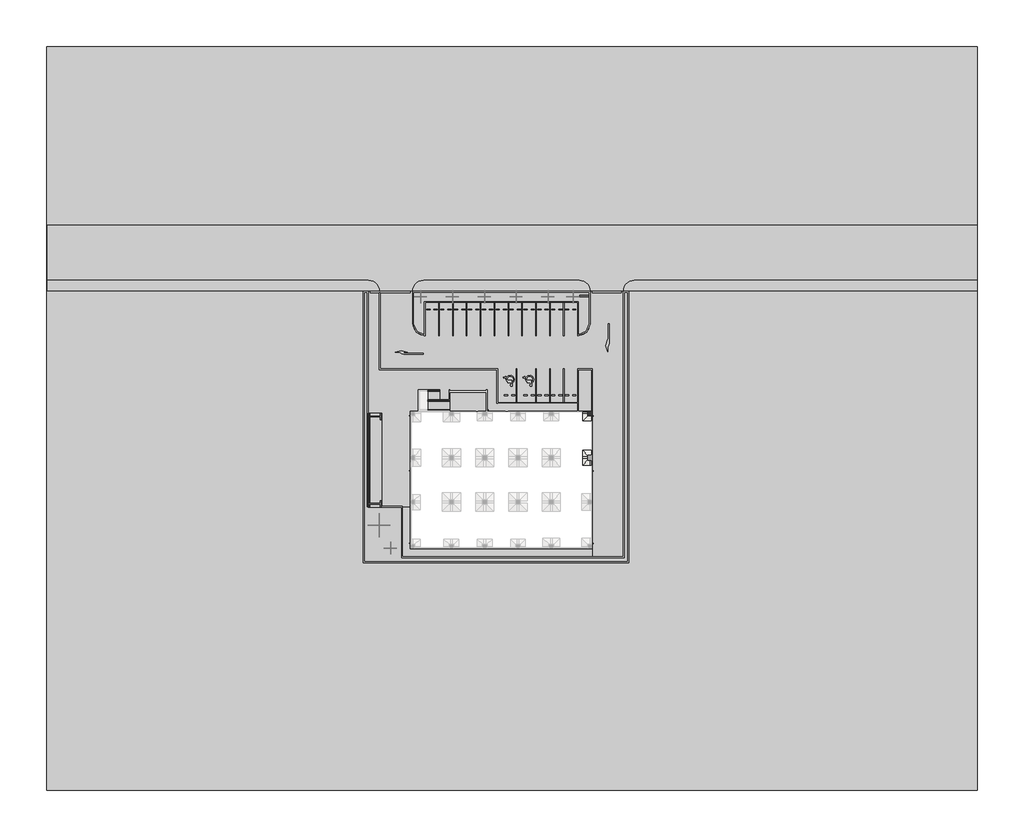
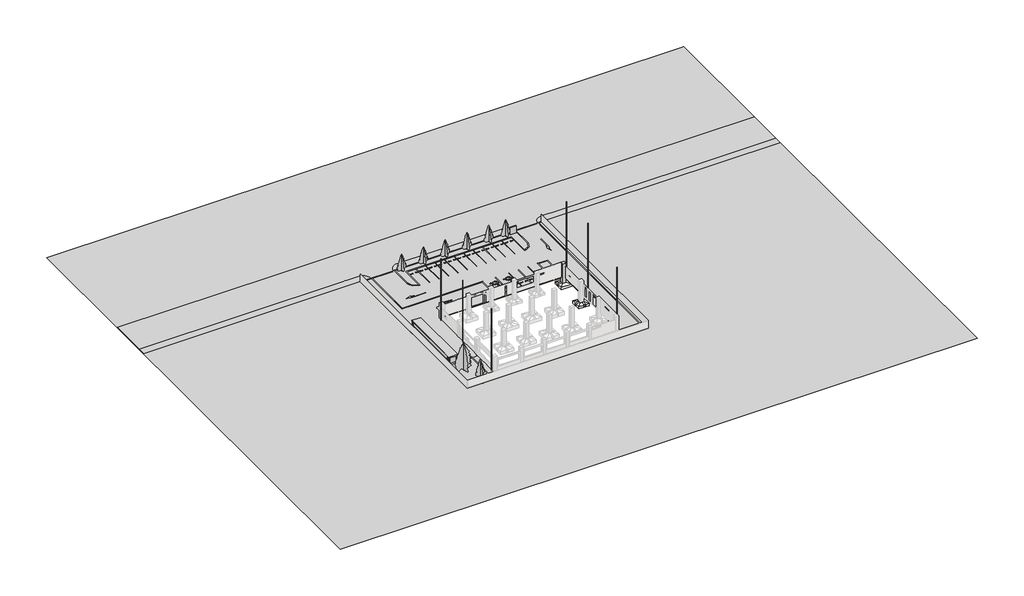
# One storey, part 4 of 4: 34 proxies, 14 geographic elements, 4 railings, 2 ramps, 2 slabs, 1 column.
"""IFC4 building model written with IfcOpenShell, lengths in millimetres."""

from ifc_helpers import new_model, si_unit, frame, origin, place, context, project, spatial, polyline, outline, extrude, faceted_brep, triangles, transform, mapped, element, save
from components import parking_47fc6d20, parking_f053e08a, parking_146f316f, generic_models_576e4361, generic_models_93210aff, generic_models_82cc7334, geographic_element_0894a9f6, geographic_element_8a4f6f01, geographic_element_bdb0ab01, geographic_element_bd6ab4d7, geographic_element_62d1d38a, w200_b9cd528b, w200_ae710f6c, ramp_1_20_a26907a8, ramp_1_20_5bf82f81

model = new_model("IFC4")

# Units and contexts
model_context = context("Model", 3, world=origin())
ifc_project = project(units=[si_unit("LENGTHUNIT", "METRE", prefix="MILLI")], contexts=[model_context])

# Site, building, storey
site = spatial("IfcSite", under=ifc_project)
building = spatial("IfcBuilding", under=site)
storey = spatial("IfcBuildingStorey", under=building, Name="設計GL=平均地盤面", Elevation=-300.0)

# Proxies
placement = place(None, origin())
element("IfcBuildingElementProxy", 1, Name="Building Element Proxy", at=placement, inside=storey, context=model_context, shape_type="Tessellation", body=[
    triangles([(-65997.3529907, 90131.6519531, -300.0000023), (-65997.3529907, -43956.954126, -300.0000023), (101830.4634521, -43956.954126, -300.0000023), (101830.4634521, 46000.0015137, -300.0000023), (39976.1878052, 46000.0015137, -300.0000023), (38925.0008057, 46000.0015137, -300.0000023), (38925.0008057, 45250.0007813, -300.0000023), (38925.0008057, -2900.0000221, -300.0000023), (-4888.888797, -2900.0000221, -300.0000023), (-8899.9997772, -2900.0000221, -300.0000023), (-8899.9997772, 46000.0015137, -300.0000023), (-65924.9992676, 46000.0015137, -300.0000023), (-65924.9992676, 48000.0003662, -300.0000023), (-65924.9992676, 57999.9992798, -300.0000023), (-24425.5486267, 57999.9992798, -300.0000023), (10395.1794434, 57999.9992798, -300.0000023), (56029.8544189, 57999.9992798, -300.0000023), (56795.2123535, 57999.9992798, -300.0000023), (101830.4634521, 57999.9992798, -300.0000023), (101830.4634521, 90131.6519531, -300.0000023)], [[2, 12, 1], [12, 2, 10], [9, 10, 2], [10, 11, 12], [2, 8, 9], [1, 14, 15], [14, 1, 13], [15, 16, 1], [1, 12, 13], [1, 16, 20], [6, 7, 5], [8, 4, 5], [3, 8, 2], [4, 8, 3], [8, 5, 7], [17, 18, 20], [19, 20, 18], [17, 20, 16]], closed=False),
])
element("IfcBuildingElementProxy", 2, Name="Building Element Proxy", at=placement, inside=storey, context=model_context, shape_type="Tessellation", body=[
    triangles([(0.0, 46000.0015137, -300.0000023), (50.1441776, 46445.0441162, -300.0000023), (198.0622564, 46867.7671509, -300.0000023), (436.3370293, 47246.9812134, -300.0000023), (753.0203882, 47563.664209, -300.0000023), (1132.2324886, 47801.9380371, -300.0000023), (1554.9581394, 47949.8545898, -300.0000023), (2000.0000153, 48000.0003662, -300.0000023), (29999.9990662, 48000.0003662, -300.0000023), (30445.0416687, 47949.8545898, -300.0000023), (30867.7670288, 47801.9380371, -300.0000023), (31246.9787659, 47563.664209, -300.0000023), (31563.6640869, 47246.9812134, -300.0000023), (31801.937915, 46867.7671509, -300.0000023), (31949.8567932, 46445.0441162, -300.0000023), (32000.0002441, 46000.0015137, -300.0000023), (37999.9991272, 46000.0015137, -300.0000023), (38041.8547119, 46371.462561, -300.0000023), (38050.1449036, 46445.0441162, -300.0000023), (38198.0614563, 46867.7671509, -300.0000023), (38436.3376099, 47246.9812134, -300.0000023), (38753.0206055, 47563.664209, -300.0000023), (39132.234668, 47801.9380371, -300.0000023), (39554.9577026, 47949.8545898, -300.0000023), (40000.0003052, 48000.0003662, -300.0000023), (41775.8081909, 48000.0003662, -300.0000023), (42779.3608887, 48000.0003662, -300.0000023), (101830.4634521, 48000.0003662, -300.0000023), (101830.4634521, 57999.9992798, -300.0000023), (56795.2123535, 57999.9992798, -300.0000023), (56029.8544189, 57999.9992798, -300.0000023), (10395.1794434, 57999.9992798, -300.0000023), (-24425.5486267, 57999.9992798, -300.0000023), (-65924.9992676, 57999.9992798, -300.0000023), (-65924.9992676, 48000.0003662, -300.0000023), (-11487.5918335, 48000.0003662, -300.0000023), (-8000.000061, 48000.0003662, -300.0000023), (-7554.9580399, 47949.8545898, -300.0000023), (-7132.2326797, 47801.9380371, -300.0000023), (-6753.0203613, 47563.664209, -300.0000023), (-6436.3367844, 47246.9812134, -300.0000023), (-6198.0623749, 46867.7671509, -300.0000023), (-6050.1440781, 46445.0441162, -300.0000023), (-6000.0000458, 46000.0015137, -300.0000023)], [[42, 43, 2], [40, 41, 4], [39, 40, 5], [42, 3, 41], [1, 2, 43], [2, 3, 42], [5, 40, 4], [4, 41, 3], [1, 43, 44], [39, 5, 6], [35, 36, 33], [35, 33, 34], [33, 36, 37], [33, 37, 32], [38, 6, 7], [38, 7, 32], [8, 9, 32], [32, 9, 31], [8, 32, 7], [38, 32, 37], [6, 38, 39], [15, 16, 18], [13, 14, 21], [12, 13, 22], [15, 20, 14], [18, 19, 15], [17, 18, 16], [21, 22, 13], [20, 21, 14], [19, 20, 15], [12, 22, 23], [11, 23, 24], [23, 11, 12], [31, 10, 24], [24, 10, 11], [31, 24, 25], [31, 26, 27], [30, 27, 28], [27, 30, 31], [30, 28, 29], [26, 31, 25], [10, 31, 9]], closed=False),
])
element("IfcBuildingElementProxy", 3, Name="Building Element Proxy", at=placement, inside=storey, context=model_context, shape_type="Tessellation", body=[
    triangles([(-6000.0000458, 46000.0015137, -300.0000023), (-6000.0000458, 45953.1253052, -300.0000023), (-6000.0000458, 32000.0002441, -300.0000023), (11097.0586945, 32000.0002441, -300.0000023), (15324.9994629, 32000.0002441, -300.0000023), (15324.9994629, 25999.9990356, -300.0000023), (29750.0003723, 25999.9990356, -300.0000023), (29750.0003723, 32000.0002441, -300.0000023), (32399.9990845, 32000.0002441, -300.0000023), (32399.9990845, 982.1229012, -300.0000023), (32399.9990845, -1486.2751225, -300.0000023), (32399.9990845, -1510.3910923, -300.0000023), (32399.9990845, -1850.0000141, -300.0000023), (33904.7025879, -1850.0000141, -300.0000023), (33985.8790283, -1850.0000141, -300.0000023), (37093.9823364, -1850.0000141, -300.0000023), (37999.9991272, -1850.0000141, -300.0000023), (37999.9991272, 44775.141394, -300.0000023), (37999.9991272, 45265.6230835, -300.0000023), (37999.9991272, 46000.0015137, -300.0000023), (32000.0002441, 46000.0015137, -300.0000023), (32000.0002441, 45359.3755005, -300.0000023), (32000.0002441, 41925.975769, -300.0000023), (32000.0002441, 40249.998999, -300.0000023), (31956.7679993, 39811.0490479, -300.0000023), (31828.729303, 39388.9631836, -300.0000023), (31620.8071106, 38999.9659973, -300.0000023), (31340.9893066, 38659.0100647, -300.0000023), (31000.033374, 38379.1922607, -300.0000023), (30611.0385132, 38171.2700684, -300.0000023), (30188.9526489, 38043.2336975, -300.0000023), (29750.0003723, 37999.9991272, -300.0000023), (29750.0003723, 40857.5433105, -300.0000023), (29750.0003723, 43999.9980103, -300.0000023), (2250.0000172, 43999.9980103, -300.0000023), (2250.0000172, 37999.9991272, -300.0000023), (1811.0467232, 38043.2336975, -300.0000023), (1388.9623123, 38171.2700684, -300.0000023), (999.9669428, 38379.1922607, -300.0000023), (659.0097748, 38659.0100647, -300.0000023), (379.1933879, 38999.9659973, -300.0000023), (171.2710502, 39388.9631836, -300.0000023), (43.2331169, 39811.0490479, -300.0000023), (0.0, 40249.998999, -300.0000023), (0.0, 45859.3728882, -300.0000023), (0.0, 46000.0015137, -300.0000023)], [[3, 36, 37], [36, 3, 4], [38, 39, 3], [37, 38, 3], [3, 39, 40], [5, 6, 7], [5, 7, 8], [4, 5, 35], [32, 5, 8], [31, 32, 8], [4, 35, 36], [32, 33, 5], [44, 45, 2], [43, 44, 2], [1, 2, 46], [46, 2, 45], [2, 3, 43], [43, 3, 42], [42, 3, 41], [5, 34, 35], [33, 34, 5], [3, 40, 41], [10, 17, 9], [31, 9, 30], [31, 8, 9], [30, 9, 29], [10, 11, 14], [15, 16, 10], [16, 17, 10], [12, 13, 14], [14, 15, 10], [14, 11, 12], [9, 17, 18], [28, 29, 9], [28, 9, 27], [25, 26, 18], [24, 25, 18], [9, 26, 27], [22, 23, 18], [18, 23, 24], [22, 18, 19], [22, 20, 21], [20, 22, 19], [18, 26, 9]], closed=False),
])
element("IfcBuildingElementProxy", 4, Name="Building Element Proxy", at=placement, inside=storey, context=model_context, shape_type="Tessellation", body=[
    triangles([(-5750.0001892, 24000.0001831, -300.0000023), (-5750.0001892, 7263.51362, -300.0000023), (-5750.0001892, 7099.9997635, -300.0000023), (-5037.0640549, 7099.9997635, -300.0000023), (-400.0000031, 7099.9997635, -300.0000023), (-400.0000031, 20772.06698, -300.0000023), (-400.0000031, 24420.0001282, -300.0000023), (29750.0003723, 24420.0001282, -300.0000023), (29750.0003723, 25849.9988892, -300.0000023), (15175.0004791, 25849.9988892, -300.0000023), (15175.0004791, 31850.0000977, -300.0000023), (10781.1768127, 31850.0000977, -300.0000023), (-6000.0000458, 31850.0000977, -300.0000023), (-6000.0000458, 45953.1253052, -300.0000023), (-6000.0000458, 46000.0015137, -300.0000023), (-8000.000061, 46000.0015137, -300.0000023), (-8000.000061, 45984.3745605, -300.0000023), (-8000.000061, 39230.7681885, -300.0000023), (-8000.000061, 34081.0801941, -300.0000023), (-8000.000061, 24000.0001831, -300.0000023), (-7154.1952927, 24000.0001831, -300.0000023)], [[19, 20, 13], [13, 21, 1], [21, 13, 20], [19, 13, 18], [16, 17, 15], [14, 15, 17], [14, 18, 13], [14, 17, 18], [1, 2, 6], [4, 5, 6], [4, 6, 2], [2, 3, 4], [1, 6, 7], [7, 10, 12], [12, 10, 11], [12, 13, 7], [9, 10, 8], [8, 10, 7], [7, 13, 1]], closed=False),
])
element("IfcBuildingElementProxy", 5, Name="Building Element Proxy", at=placement, inside=storey, context=model_context, shape_type="Tessellation", body=[
    triangles([(0.0, 40249.998999, -300.0000023), (43.2331169, 39811.0490479, -300.0000023), (171.2710502, 39388.9631836, -300.0000023), (379.1933879, 38999.9659973, -300.0000023), (659.0097748, 38659.0100647, -300.0000023), (999.9669428, 38379.1922607, -300.0000023), (1388.9623123, 38171.2700684, -300.0000023), (1811.0467232, 38043.2336975, -300.0000023), (2250.0000172, 37999.9991272, -300.0000023), (2250.0000172, 43999.9980103, -300.0000023), (29750.0003723, 43999.9980103, -300.0000023), (29750.0003723, 40857.5433105, -300.0000023), (29750.0003723, 37999.9991272, -300.0000023), (30188.9526489, 38043.2336975, -300.0000023), (30611.0385132, 38171.2700684, -300.0000023), (31000.033374, 38379.1922607, -300.0000023), (31340.9893066, 38659.0100647, -300.0000023), (31620.8071106, 38999.9659973, -300.0000023), (31828.729303, 39388.9631836, -300.0000023), (31956.7679993, 39811.0490479, -300.0000023), (32000.0002441, 40249.998999, -300.0000023), (32000.0002441, 41925.975769, -300.0000023), (32000.0002441, 45359.3755005, -300.0000023), (32000.0002441, 46000.0015137, -300.0000023), (0.0, 46000.0015137, -300.0000023), (0.0, 45859.3728882, -300.0000023)], [[1, 4, 5], [6, 1, 5], [1, 7, 8], [6, 7, 1], [1, 8, 9], [26, 1, 10], [25, 26, 10], [4, 1, 3], [25, 10, 24], [1, 9, 10], [3, 1, 2], [12, 14, 15], [12, 15, 16], [17, 18, 12], [17, 12, 16], [18, 19, 12], [21, 22, 12], [19, 20, 12], [12, 20, 21], [22, 11, 12], [23, 24, 11], [22, 23, 11], [11, 24, 10], [12, 13, 14]], closed=False),
])
element("IfcBuildingElementProxy", 6, Name="Building Element Proxy", at=placement, inside=storey, context=model_context, shape_type="Tessellation", body=[
    triangles([(-5750.0001892, 7099.9997635, -300.0000023), (-8000.000061, 7099.9997635, -300.0000023), (-8225.0002808, 7099.9997635, -300.0000023), (-8225.0002808, 24000.0001831, -300.0000023), (-8000.000061, 24000.0001831, -300.0000023), (-8000.000061, 34081.0801941, -300.0000023), (-8000.000061, 39230.7681885, -300.0000023), (-8000.000061, 45984.3745605, -300.0000023), (-8000.000061, 46000.0015137, -300.0000023), (-8849.9999222, 46000.0015137, -300.0000023), (-8849.9999222, 45997.6574707, -300.0000023), (-8849.9999222, 44984.61698, -300.0000023), (-8849.9999222, 44212.1618042, -300.0000023), (-8849.9999222, 41741.9358398, -300.0000023), (-8849.9999222, 2225.8064358, -300.0000023), (-8849.9999222, -1045.1612772, -300.0000023), (-8849.9999222, -2533.846209, -300.0000023), (-8849.9999222, -2849.9998764, -300.0000023), (-4901.6775513, -2849.9998764, -300.0000023), (38335.3949341, -2849.9998764, -300.0000023), (38345.9849854, -2849.9998764, -300.0000023), (38751.388147, -2849.9998764, -300.0000023), (38850.0007324, -2849.9998764, -300.0000023), (38850.0007324, 45178.7725708, -300.0000023), (38850.0007324, 45252.3448242, -300.0000023), (38850.0007324, 46000.0015137, -300.0000023), (37999.9991272, 46000.0015137, -300.0000023), (37999.9991272, 45265.6230835, -300.0000023), (37999.9991272, 44775.141394, -300.0000023), (37999.9991272, -2000.0000153, -300.0000023), (37342.5927429, -2000.0000153, -300.0000023), (34639.8949219, -2000.0000153, -300.0000023), (34569.3062073, -2000.0000153, -300.0000023), (-2000.0000153, -2000.0000153, -300.0000023), (-2000.0000153, 6253.631076, -300.0000023), (-2000.0000153, 6403.4422806, -300.0000023), (-2000.0000153, 7099.9997635, -300.0000023), (-5037.0640549, 7099.9997635, -300.0000023)], [[19, 15, 16], [35, 38, 15], [17, 19, 16], [2, 3, 15], [38, 1, 15], [2, 15, 1], [15, 3, 4], [17, 18, 19], [8, 12, 13], [8, 11, 12], [10, 11, 9], [8, 13, 14], [6, 7, 14], [6, 4, 5], [9, 11, 8], [8, 14, 7], [4, 6, 14], [14, 15, 4], [32, 20, 31], [19, 20, 33], [20, 32, 33], [19, 33, 34], [22, 23, 30], [30, 20, 21], [20, 30, 31], [30, 21, 22], [23, 24, 30], [35, 15, 34], [37, 38, 36], [36, 38, 35], [24, 25, 28], [28, 26, 27], [26, 28, 25], [24, 28, 29], [30, 24, 29], [19, 34, 15]], closed=False),
])
element("IfcBuildingElementProxy", 7, Name="Building Element Proxy", at=placement, inside=storey, context=model_context, shape_type="Tessellation", body=[
    triangles([(32399.9990845, -420.0000177, -300.0000023), (27750.9293701, -420.0000177, -300.0000023), (27568.8125793, -420.0000177, -300.0000023), (-400.0000031, -420.0000177, -300.0000023), (-400.0000031, 5892.5141647, -300.0000023), (-400.0000031, 6036.4792145, -300.0000023), (-400.0000031, 7099.9997635, -300.0000023), (-1850.0000141, 7099.9997635, -300.0000023), (-1850.0000141, 6369.0397293, -300.0000023), (-1850.0000141, 6219.7767471, -300.0000023), (-1850.0000141, -1850.0000141, -300.0000023), (32399.9990845, -1850.0000141, -300.0000023), (32399.9990845, -1510.3910923, -300.0000023), (32399.9990845, -1486.2751225, -300.0000023)], [[5, 10, 4], [4, 10, 11], [10, 5, 6], [8, 9, 7], [6, 9, 10], [9, 6, 7], [13, 14, 2], [12, 13, 2], [11, 3, 4], [3, 12, 2], [14, 1, 2], [3, 11, 12]], closed=False),
])
element("IfcBuildingElementProxy", 8, Name="Building Element Proxy", at=placement, inside=storey, context=model_context, shape_type="Tessellation", body=[
    triangles([(32270.0000427, 31850.0000977, -300.0000023), (29900.0005188, 31850.0000977, -300.0000023), (29900.0005188, 24420.0001282, -300.0000023), (32270.0000427, 24420.0001282, -300.0000023)], [[2, 3, 4], [4, 1, 2]], closed=False),
])
element("IfcBuildingElementProxy", 9, Name="Building Element Proxy", at=placement, inside=storey, context=model_context, shape_type="Tessellation", body=[
    triangles([(-8899.9997772, 46000.0015137, -300.0000023), (-6000.0000458, 46000.0015137, -300.0000023), (-6050.1440781, 46445.0441162, -300.0000023), (-6198.0623749, 46867.7671509, -300.0000023), (-6436.3367844, 47246.9812134, -300.0000023), (-6753.0203613, 47563.664209, -300.0000023), (-7132.2326797, 47801.9380371, -300.0000023), (-7554.9580399, 47949.8545898, -300.0000023), (-8000.000061, 48000.0003662, -300.0000023), (-11487.5918335, 48000.0003662, -300.0000023), (-65924.9992676, 48000.0003662, -300.0000023), (-65924.9992676, 46000.0015137, -300.0000023), (38925.0008057, 46000.0015137, -300.0000023), (39976.1878052, 46000.0015137, -300.0000023), (101830.4634521, 46000.0015137, -300.0000023), (101830.4634521, 48000.0003662, -300.0000023), (42779.3608887, 48000.0003662, -300.0000023), (41775.8081909, 48000.0003662, -300.0000023), (40000.0003052, 48000.0003662, -300.0000023), (39554.9577026, 47949.8545898, -300.0000023), (39132.234668, 47801.9380371, -300.0000023), (38753.0206055, 47563.664209, -300.0000023), (38436.3376099, 47246.9812134, -300.0000023), (38198.0614563, 46867.7671509, -300.0000023), (38050.1449036, 46445.0441162, -300.0000023), (38041.8547119, 46371.462561, -300.0000023), (37999.9991272, 46000.0015137, -300.0000023), (0.0, 46000.0015137, -300.0000023), (32000.0002441, 46000.0015137, -300.0000023), (31949.8567932, 46445.0441162, -300.0000023), (31801.937915, 46867.7671509, -300.0000023), (31563.6640869, 47246.9812134, -300.0000023), (31246.9787659, 47563.664209, -300.0000023), (30867.7670288, 47801.9380371, -300.0000023), (30445.0416687, 47949.8545898, -300.0000023), (29999.9990662, 48000.0003662, -300.0000023), (2000.0000153, 48000.0003662, -300.0000023), (1554.9581394, 47949.8545898, -300.0000023), (1132.2324886, 47801.9380371, -300.0000023), (753.0203882, 47563.664209, -300.0000023), (436.3370293, 47246.9812134, -300.0000023), (198.0622564, 46867.7671509, -300.0000023), (50.1441776, 46445.0441162, -300.0000023)], [[10, 12, 1], [1, 4, 5], [4, 1, 3], [1, 2, 3], [6, 1, 5], [28, 42, 43], [42, 28, 41], [28, 40, 41], [7, 8, 1], [1, 9, 10], [9, 1, 8], [10, 11, 12], [40, 28, 39], [38, 39, 28], [28, 37, 38], [28, 36, 37], [1, 6, 7], [28, 29, 36], [29, 31, 32], [31, 29, 30], [29, 32, 33], [23, 24, 13], [14, 22, 13], [13, 25, 26], [25, 13, 24], [13, 26, 27], [15, 17, 14], [35, 29, 34], [13, 22, 23], [34, 29, 33], [21, 22, 14], [20, 21, 14], [20, 14, 19], [18, 19, 14], [17, 18, 14], [15, 16, 17], [29, 35, 36]], closed=False),
])
parking_shape = parking_47fc6d20(model_context)
element("IfcBuildingElementProxy", 10, Name="駐車場スペース : 6000 x 2500 mm - 90 度", ObjectType="駐車場スペース : 6000 x 2500 mm - 90 度", at=placement, inside=storey, context=model_context, shape_type="MappedRepresentation", body=[
    mapped(parking_shape, transform((4750.0, 44000.0, -300.0), x_axis=(-1.0, 0.0, 0.0), y_axis=(0.0, -1.0, 0.0), z_axis=(0.0, 0.0, 1.0))),
])
element("IfcBuildingElementProxy", 11, Name="駐車場スペース : 6000 x 2500 mm - 90 度", ObjectType="駐車場スペース : 6000 x 2500 mm - 90 度", at=placement, inside=storey, context=model_context, shape_type="MappedRepresentation", body=[
    mapped(parking_shape, transform((7250.0, 44000.0, -300.0), x_axis=(-1.0, 0.0, 0.0), y_axis=(0.0, -1.0, 0.0), z_axis=(0.0, 0.0, 1.0))),
])
element("IfcBuildingElementProxy", 12, Name="駐車場スペース : 6000 x 2500 mm - 90 度", ObjectType="駐車場スペース : 6000 x 2500 mm - 90 度", at=placement, inside=storey, context=model_context, shape_type="MappedRepresentation", body=[
    mapped(parking_shape, transform((9750.0, 44000.0, -300.0), x_axis=(-1.0, 0.0, 0.0), y_axis=(0.0, -1.0, 0.0), z_axis=(0.0, 0.0, 1.0))),
])
element("IfcBuildingElementProxy", 13, Name="駐車場スペース : 6000 x 2500 mm - 90 度", ObjectType="駐車場スペース : 6000 x 2500 mm - 90 度", at=placement, inside=storey, context=model_context, shape_type="MappedRepresentation", body=[
    mapped(parking_shape, transform((12250.0, 44000.0, -300.0), x_axis=(-1.0, 0.0, 0.0), y_axis=(0.0, -1.0, 0.0), z_axis=(0.0, 0.0, 1.0))),
])
element("IfcBuildingElementProxy", 14, Name="駐車場スペース : 6000 x 2500 mm - 90 度", ObjectType="駐車場スペース : 6000 x 2500 mm - 90 度", at=placement, inside=storey, context=model_context, shape_type="MappedRepresentation", body=[
    mapped(parking_shape, transform((14750.0, 44000.0, -300.0), x_axis=(-1.0, 0.0, 0.0), y_axis=(0.0, -1.0, 0.0), z_axis=(0.0, 0.0, 1.0))),
])
element("IfcBuildingElementProxy", 15, Name="駐車場スペース : 6000 x 2500 mm - 90 度", ObjectType="駐車場スペース : 6000 x 2500 mm - 90 度", at=placement, inside=storey, context=model_context, shape_type="MappedRepresentation", body=[
    mapped(parking_shape, transform((17250.0, 44000.0, -300.0), x_axis=(-1.0, 0.0, 0.0), y_axis=(0.0, -1.0, 0.0), z_axis=(0.0, 0.0, 1.0))),
])
element("IfcBuildingElementProxy", 16, Name="駐車場スペース : 6000 x 2500 mm - 90 度", ObjectType="駐車場スペース : 6000 x 2500 mm - 90 度", at=placement, inside=storey, context=model_context, shape_type="MappedRepresentation", body=[
    mapped(parking_shape, transform((19750.0, 44000.0, -300.0), x_axis=(-1.0, 0.0, 0.0), y_axis=(0.0, -1.0, 0.0), z_axis=(0.0, 0.0, 1.0))),
])
element("IfcBuildingElementProxy", 17, Name="駐車場スペース : 6000 x 2500 mm - 90 度", ObjectType="駐車場スペース : 6000 x 2500 mm - 90 度", at=placement, inside=storey, context=model_context, shape_type="MappedRepresentation", body=[
    mapped(parking_shape, transform((22250.0, 44000.0, -300.0), x_axis=(-1.0, 0.0, 0.0), y_axis=(0.0, -1.0, 0.0), z_axis=(0.0, 0.0, 1.0))),
])
element("IfcBuildingElementProxy", 18, Name="駐車場スペース : 6000 x 2500 mm - 90 度", ObjectType="駐車場スペース : 6000 x 2500 mm - 90 度", at=placement, inside=storey, context=model_context, shape_type="MappedRepresentation", body=[
    mapped(parking_shape, transform((24750.0, 44000.0, -300.0), x_axis=(-1.0, 0.0, 0.0), y_axis=(0.0, -1.0, 0.0), z_axis=(0.0, 0.0, 1.0))),
])
element("IfcBuildingElementProxy", 19, Name="駐車場スペース : 6000 x 2500 mm - 90 度", ObjectType="駐車場スペース : 6000 x 2500 mm - 90 度", at=placement, inside=storey, context=model_context, shape_type="MappedRepresentation", body=[
    mapped(parking_shape, transform((27250.0, 44000.0, -300.0), x_axis=(-1.0, 0.0, 0.0), y_axis=(0.0, -1.0, 0.0), z_axis=(0.0, 0.0, 1.0))),
])
element("IfcBuildingElementProxy", 20, Name="駐車場スペース : 6000 x 2500 mm - 90 度", ObjectType="駐車場スペース : 6000 x 2500 mm - 90 度", at=placement, inside=storey, context=model_context, shape_type="MappedRepresentation", body=[
    mapped(parking_shape, transform((27250.0, 26000.0, -300.0), x_axis=(1.0, 0.0, 0.0), y_axis=(0.0, 1.0, 0.0), z_axis=(0.0, 0.0, 1.0))),
])
element("IfcBuildingElementProxy", 21, Name="駐車場スペース : 6000 x 2500 mm - 90 度", ObjectType="駐車場スペース : 6000 x 2500 mm - 90 度", at=placement, inside=storey, context=model_context, shape_type="MappedRepresentation", body=[
    mapped(parking_shape, transform((24750.0, 26000.0, -300.0), x_axis=(1.0, 0.0, 0.0), y_axis=(0.0, 1.0, 0.0), z_axis=(0.0, 0.0, 1.0))),
])
element("IfcBuildingElementProxy", 22, Name="駐車場スペース : 6000 x 2500 mm - 90 度", ObjectType="駐車場スペース : 6000 x 2500 mm - 90 度", at=placement, inside=storey, context=model_context, shape_type="MappedRepresentation", body=[
    mapped(parking_shape, transform((22250.0, 26000.0, -300.0), x_axis=(1.0, 0.0, 0.0), y_axis=(0.0, 1.0, 0.0), z_axis=(0.0, 0.0, 1.0))),
])
parking_2_shape = parking_f053e08a(model_context)
element("IfcBuildingElementProxy", 23, Name="駐車場スペース : 6000 x 2500 mm - 90 度", ObjectType="駐車場スペース : 6000 x 2500 mm - 90 度", at=placement, inside=storey, context=model_context, shape_type="MappedRepresentation", body=[
    mapped(parking_2_shape, transform((27250.0, 44000.0, -300.0), x_axis=(1.0, 0.0, 0.0), y_axis=(0.0, 1.0, 0.0), z_axis=(0.0, 0.0, 1.0))),
])
element("IfcBuildingElementProxy", 24, Name="駐車場スペース : 6000 x 2500 mm - 90 度", ObjectType="駐車場スペース : 6000 x 2500 mm - 90 度", at=placement, inside=storey, context=model_context, shape_type="MappedRepresentation", body=[
    mapped(parking_2_shape, transform((22250.0, 26000.0, -300.0), x_axis=(-1.0, 0.0, 0.0), y_axis=(0.0, -1.0, 0.0), z_axis=(0.0, 0.0, 1.0))),
])
element("IfcBuildingElementProxy", 25, Name="駐車場スペース : 6000 x 2500 mm - 90 度", ObjectType="駐車場スペース : 6000 x 2500 mm - 90 度", at=placement, inside=storey, context=model_context, shape_type="MappedRepresentation", body=[
    mapped(parking_2_shape, transform((18750.0, 26000.0, -300.0), x_axis=(-1.0, 0.0, 0.0), y_axis=(0.0, -1.0, 0.0), z_axis=(0.0, 0.0, 1.0))),
])
parking_3_shape = parking_146f316f(model_context)
element("IfcBuildingElementProxy", 26, Name="駐車エリア - 身障者用 : 駐車エリア - 身障者用", ObjectType="駐車エリア - 身障者用 : 駐車エリア - 身障者用", at=placement, inside=storey, context=model_context, shape_type="MappedRepresentation", body=[
    mapped(parking_3_shape, transform((17550.0, 30095.7679295, -299.2196314), x_axis=(-1.0, 0.0, 0.0), y_axis=(0.0, -1.0, 0.0), z_axis=(0.0, 0.0, 1.0))),
])
element("IfcBuildingElementProxy", 27, Name="駐車エリア - 身障者用 : 駐車エリア - 身障者用", ObjectType="駐車エリア - 身障者用 : 駐車エリア - 身障者用", at=placement, inside=storey, context=model_context, shape_type="MappedRepresentation", body=[
    mapped(parking_3_shape, transform((21050.0, 30095.7679295, -299.2196314), x_axis=(-1.0, 0.0, 0.0), y_axis=(0.0, -1.0, 0.0), z_axis=(0.0, 0.0, 1.0))),
])
generic_models_shape = generic_models_576e4361(model_context)
element("IfcBuildingElementProxy", 28, Name="営_3D_竪樋 : 3D_竪樋", ObjectType="営_3D_竪樋 : 3D_竪樋", at=placement, inside=storey, context=model_context, shape_type="MappedRepresentation", body=[
    mapped(generic_models_shape, transform((-515.0, 23535.0, 0.0), x_axis=(1.0, 0.0, 0.0), y_axis=(0.0, 1.0, 0.0), z_axis=(0.0, 0.0, 1.0))),
])
element("IfcBuildingElementProxy", 29, Name="営_3D_竪樋 : 3D_竪樋", ObjectType="営_3D_竪樋 : 3D_竪樋", at=placement, inside=storey, context=model_context, shape_type="MappedRepresentation", body=[
    mapped(generic_models_shape, transform((32520.0, 560.0, 0.0), x_axis=(1.0, 0.0, 0.0), y_axis=(0.0, 1.0, 0.0), z_axis=(0.0, 0.0, 1.0))),
])
element("IfcBuildingElementProxy", 30, Name="営_3D_竪樋 : 3D_竪樋", ObjectType="営_3D_竪樋 : 3D_竪樋", at=placement, inside=storey, context=model_context, shape_type="MappedRepresentation", body=[
    mapped(generic_models_shape, transform((-515.0, 560.0, 0.0), x_axis=(1.0, 0.0, 0.0), y_axis=(0.0, 1.0, 0.0), z_axis=(0.0, 0.0, 1.0))),
])
element("IfcBuildingElementProxy", 31, Name="営_3D_竪樋 : 3D_竪樋", ObjectType="営_3D_竪樋 : 3D_竪樋", at=placement, inside=storey, context=model_context, shape_type="MappedRepresentation", body=[
    mapped(generic_models_shape, transform((-515.0, 13630.0, 0.0), x_axis=(1.0, 0.0, 0.0), y_axis=(0.0, 1.0, 0.0), z_axis=(0.0, 0.0, 1.0))),
])
generic_models_2_shape = generic_models_93210aff(model_context)
element("IfcBuildingElementProxy", 32, Name="営_3D_竪樋 : 3D_竪樋", ObjectType="営_3D_竪樋 : 3D_竪樋", at=placement, inside=storey, context=model_context, shape_type="MappedRepresentation", body=[
    mapped(generic_models_2_shape, transform((32520.0, 23535.0, 0.0), x_axis=(1.0, 0.0, 0.0), y_axis=(0.0, 1.0, 0.0), z_axis=(0.0, 0.0, 1.0))),
])
element("IfcBuildingElementProxy", 33, Name="営_3D_竪樋 : 3D_竪樋", ObjectType="営_3D_竪樋 : 3D_竪樋", at=placement, inside=storey, context=model_context, shape_type="MappedRepresentation", body=[
    mapped(generic_models_2_shape, transform((32520.0, 13630.0, 0.0), x_axis=(1.0, 0.0, 0.0), y_axis=(0.0, 1.0, 0.0), z_axis=(0.0, 0.0, 1.0))),
])
generic_models_3_shape = generic_models_82cc7334(model_context)
element("IfcBuildingElementProxy", 34, Name="営_3D_竪樋 : 3D_竪樋", ObjectType="営_3D_竪樋 : 3D_竪樋", at=placement, inside=storey, context=model_context, shape_type="MappedRepresentation", body=[
    mapped(generic_models_3_shape, transform((13600.0, 24600.0, 0.0), x_axis=(1.0, 0.0, 0.0), y_axis=(0.0, 1.0, 0.0), z_axis=(0.0, 0.0, 1.0))),
])

# Column
element("IfcColumn", 35, ObjectType="営_RC柱_角 : 800*800", at=placement, inside=storey, context=model_context, shape_type="Brep", body=[
    faceted_brep([(32420.0, 24420.0, -1350.0), (32420.0, 23580.0, -1350.0), (31580.0, 23580.0, -1350.0), (31580.0, 24420.0, -1350.0), (32420.0, 24420.0, 4000.0), (32420.0, 23580.0, 4000.0), (32420.0, 23580.0, 3100.0), (32420.0, 23580.0, -10.0), (32325.0, 23580.0, 4000.0), (31580.0, 23580.0, 4000.0), (31580.0, 23580.0, 0.0), (31580.0, 23580.0, -10.0), (31580.0, 23580.0, -160.0), (31580.0, 24250.0, 4000.0), (31580.0, 24420.0, 4000.0), (31580.0, 24420.0, -10.0)], [[[0, 1, 2, 3]], [[4, 5, 6, 7, 1, 0]], [[5, 8, 9, 10, 11, 12, 2, 1, 7, 6]], [[9, 13, 14, 15, 3, 2, 12, 11, 10]], [[14, 4, 0, 3, 15]], [[4, 14, 13, 9, 8, 5]]]),
])

# Geographic elements
geographic_element_shape = geographic_element_0894a9f6(model_context)
element("IfcGeographicElement", 36, ObjectType="営_道路標識 : 道路標識", at=placement, inside=storey, context=model_context, shape_type="MappedRepresentation", body=[
    mapped(geographic_element_shape, transform((35145.0, 37625.0, -300.0), x_axis=(1.0, 0.0, 0.0), y_axis=(0.0, 1.0, 0.0), z_axis=(0.0, 0.0, 1.0))),
])
element("IfcGeographicElement", 37, ObjectType="営_道路標識 : 道路標識", at=placement, inside=storey, context=model_context, shape_type="MappedRepresentation", body=[
    mapped(geographic_element_shape, transform((-625.0, 34975.0, -300.0), x_axis=(0.0, -1.0, 0.0), y_axis=(1.0, 0.0, 0.0), z_axis=(0.0, 0.0, 1.0))),
])
geographic_element_2_shape = geographic_element_8a4f6f01(model_context)
element("IfcGeographicElement", 38, ObjectType="営_自転車置場 : 自転車置場", at=placement, inside=storey, context=model_context, shape_type="MappedRepresentation", body=[
    mapped(geographic_element_2_shape, transform((-7945.0, 7100.0, -300.0), x_axis=(0.0, 1.0, 0.0), y_axis=(-1.0, 0.0, 0.0), z_axis=(0.0, 0.0, 1.0))),
])
geographic_element_3_shape = geographic_element_bdb0ab01(model_context)
element("IfcGeographicElement", 39, ObjectType="営_庁名板 : 庁名板", at=placement, inside=storey, context=model_context, shape_type="MappedRepresentation", body=[
    mapped(geographic_element_3_shape, transform((30925.0, 45025.0, -300.0), x_axis=(1.0, 0.0, 0.0), y_axis=(0.0, 1.0, 0.0), z_axis=(0.0, 0.0, 1.0))),
])
geographic_element_4_shape = geographic_element_bd6ab4d7(model_context)
element("IfcGeographicElement", 40, ObjectType="木 - 針葉樹 : カナダツガ - 7.6 メートル", at=placement, inside=storey, context=model_context, shape_type="MappedRepresentation", body=[
    mapped(geographic_element_4_shape, transform((-6024.9417187, 3786.7815806, -310.0), x_axis=(1.0, 0.0, 0.0), y_axis=(0.0, 1.0, 0.0), z_axis=(0.0, 0.0, 1.0))),
])
geographic_element_5_shape = geographic_element_62d1d38a(model_context)
element("IfcGeographicElement", 41, ObjectType="木 - 針葉樹 : オウシュウトウヒ - 4.6 メートル", at=placement, inside=storey, context=model_context, shape_type="MappedRepresentation", body=[
    mapped(geographic_element_5_shape, transform((1499.8033289, 45025.0, -310.0), x_axis=(1.0, 0.0, 0.0), y_axis=(0.0, 1.0, 0.0), z_axis=(0.0, 0.0, 1.0))),
])
element("IfcGeographicElement", 42, ObjectType="木 - 針葉樹 : オウシュウトウヒ - 4.6 メートル", at=placement, inside=storey, context=model_context, shape_type="MappedRepresentation", body=[
    mapped(geographic_element_5_shape, transform((7240.0582813, 45025.0, -310.0), x_axis=(1.0, 0.0, 0.0), y_axis=(0.0, 1.0, 0.0), z_axis=(0.0, 0.0, 1.0))),
])
element("IfcGeographicElement", 43, ObjectType="木 - 針葉樹 : オウシュウトウヒ - 4.6 メートル", at=placement, inside=storey, context=model_context, shape_type="MappedRepresentation", body=[
    mapped(geographic_element_5_shape, transform((12980.0582813, 45025.0, -310.0), x_axis=(1.0, 0.0, 0.0), y_axis=(0.0, 1.0, 0.0), z_axis=(0.0, 0.0, 1.0))),
])
element("IfcGeographicElement", 44, ObjectType="木 - 針葉樹 : オウシュウトウヒ - 4.6 メートル", at=placement, inside=storey, context=model_context, shape_type="MappedRepresentation", body=[
    mapped(geographic_element_5_shape, transform((18720.0582813, 45025.0, -310.0), x_axis=(1.0, 0.0, 0.0), y_axis=(0.0, 1.0, 0.0), z_axis=(0.0, 0.0, 1.0))),
])
element("IfcGeographicElement", 45, ObjectType="木 - 針葉樹 : オウシュウトウヒ - 4.6 メートル", at=placement, inside=storey, context=model_context, shape_type="MappedRepresentation", body=[
    mapped(geographic_element_5_shape, transform((24460.0582813, 45025.0, -310.0), x_axis=(1.0, 0.0, 0.0), y_axis=(0.0, 1.0, 0.0), z_axis=(0.0, 0.0, 1.0))),
])
element("IfcGeographicElement", 46, ObjectType="木 - 針葉樹 : オウシュウトウヒ - 4.6 メートル", at=placement, inside=storey, context=model_context, shape_type="MappedRepresentation", body=[
    mapped(geographic_element_5_shape, transform((28925.0582813, 45025.0, -310.0), x_axis=(1.0, 0.0, 0.0), y_axis=(0.0, 1.0, 0.0), z_axis=(0.0, 0.0, 1.0))),
])
element("IfcGeographicElement", 47, ObjectType="木 - 針葉樹 : オウシュウトウヒ - 4.6 メートル", at=placement, inside=storey, context=model_context, shape_type="MappedRepresentation", body=[
    mapped(geographic_element_5_shape, transform((-3924.9417187, -276.7795186, -310.0), x_axis=(1.0, 0.0, 0.0), y_axis=(0.0, 1.0, 0.0), z_axis=(0.0, 0.0, 1.0))),
])
w200_shape = w200_b9cd528b(model_context)
element("IfcGeographicElement", 48, ObjectType="営_(外構)グレーチング : W200", at=placement, inside=storey, context=model_context, shape_type="MappedRepresentation", body=[
    mapped(w200_shape, transform((-7600.0, 45895.0, -300.0), x_axis=(1.0, 0.0, 0.0), y_axis=(0.0, 1.0, 0.0), z_axis=(0.0, 0.0, 1.0))),
])
w200_2_shape = w200_ae710f6c(model_context)
element("IfcGeographicElement", 49, ObjectType="営_(外構)グレーチング : W200", at=placement, inside=storey, context=model_context, shape_type="MappedRepresentation", body=[
    mapped(w200_2_shape, transform((32400.0, 45895.0, -300.0), x_axis=(1.0, 0.0, 0.0), y_axis=(0.0, 1.0, 0.0), z_axis=(0.0, 0.0, 1.0))),
])

# Railings
element("IfcRailing", 50, ObjectType="外部スロープ手摺_H=1000", at=placement, inside=storey, context=model_context, shape_type="SweptSolid", body=[
    extrude(outline(polyline([(690.988757, 4930.0), (700.0, 4930.0), (810.75, 2715.0), (801.738757, 2715.0), (690.988757, 4930.0)])), frame((0.0, 28006.0, 0.0), z_axis=(0.0, 1.0, 0.0), x_axis=(0.0, 0.0, 1.0)), (0.0, 0.0, 1.0), 38.0),
    extrude(outline(polyline([(490.988757, 4930.0), (500.0, 4930.0), (610.75, 2715.0), (601.738757, 2715.0), (490.988757, 4930.0)])), frame((0.0, 28012.5, 0.0), z_axis=(0.0, 1.0, 0.0), x_axis=(0.0, 0.0, 1.0)), (0.0, 0.0, 1.0), 25.0),
    extrude(outline(polyline([(746.138757, 3827.0), (746.588757, 3818.0), (-244.4, 3818.0), (-244.85, 3827.0), (746.138757, 3827.0)])), frame((0.0, 28012.5, 0.0), z_axis=(0.0, 1.0, 0.0), x_axis=(0.0, 0.0, 1.0)), (0.0, 0.0, 1.0), 25.0),
    extrude(outline(polyline([(799.013757, 2769.5), (799.463757, 2760.5), (-191.525, 2760.5), (-191.975, 2769.5), (799.013757, 2769.5)])), frame((0.0, 28012.5, 0.0), z_axis=(0.0, 1.0, 0.0), x_axis=(0.0, 0.0, 1.0)), (0.0, 0.0, 1.0), 25.0),
    extrude(outline(polyline([(693.263757, 4884.5), (693.713757, 4875.5), (-297.275, 4875.5), (-297.725, 4884.5), (693.263757, 4884.5)])), frame((0.0, 28012.5, 0.0), z_axis=(0.0, 1.0, 0.0), x_axis=(0.0, 0.0, 1.0)), (0.0, 0.0, 1.0), 25.0),
])
element("IfcRailing", 51, ObjectType="外部スロープ手摺_H=1000", at=placement, inside=storey, context=model_context, shape_type="SweptSolid", body=[
    extrude(outline(polyline([(690.988757, 4930.0), (700.0, 4930.0), (810.75, 2715.0), (801.738757, 2715.0), (690.988757, 4930.0)])), frame((0.0, 26456.0, 0.0), z_axis=(0.0, 1.0, 0.0), x_axis=(0.0, 0.0, 1.0)), (0.0, 0.0, 1.0), 38.0),
    extrude(outline(polyline([(490.988757, 4930.0), (500.0, 4930.0), (610.75, 2715.0), (601.738757, 2715.0), (490.988757, 4930.0)])), frame((0.0, 26462.5, 0.0), z_axis=(0.0, 1.0, 0.0), x_axis=(0.0, 0.0, 1.0)), (0.0, 0.0, 1.0), 25.0),
    extrude(outline(polyline([(-244.85, 3827.0), (746.138757, 3827.0), (746.588757, 3818.0), (-244.4, 3818.0), (-244.85, 3827.0)])), frame((0.0, 26462.5, 0.0), z_axis=(0.0, 1.0, 0.0), x_axis=(0.0, 0.0, 1.0)), (0.0, 0.0, 1.0), 25.0),
    extrude(outline(polyline([(-191.975, 2769.5), (799.013757, 2769.5), (799.463757, 2760.5), (-191.525, 2760.5), (-191.975, 2769.5)])), frame((0.0, 26462.5, 0.0), z_axis=(0.0, 1.0, 0.0), x_axis=(0.0, 0.0, 1.0)), (0.0, 0.0, 1.0), 25.0),
    extrude(outline(polyline([(-297.725, 4884.5), (693.263757, 4884.5), (693.713757, 4875.5), (-297.275, 4875.5), (-297.725, 4884.5)])), frame((0.0, 26462.5, 0.0), z_axis=(0.0, 1.0, 0.0), x_axis=(0.0, 0.0, 1.0)), (0.0, 0.0, 1.0), 25.0),
])
element("IfcRailing", 52, ObjectType="外部スロープ手摺_H=1000", at=placement, inside=storey, context=model_context, shape_type="SweptSolid", body=[
    extrude(outline(polyline([(800.0, 2715.0), (790.988757, 2715.0), (991.0086943, 6715.3987464), (1000.0199373, 6715.3987464), (800.0, 2715.0)])), frame((0.0, 24656.0, 0.0), z_axis=(0.0, 1.0, 0.0), x_axis=(0.0, 0.0, 1.0)), (0.0, 0.0, 1.0), 38.0),
    extrude(outline(polyline([(600.0, 2715.0), (590.988757, 2715.0), (791.0086943, 6715.3987464), (800.0199373, 6715.3987464), (600.0, 2715.0)])), frame((0.0, 24662.5, 0.0), z_axis=(0.0, 1.0, 0.0), x_axis=(0.0, 0.0, 1.0)), (0.0, 0.0, 1.0), 25.0),
    extrude(outline(polyline([(-50.210047, 5710.7990598), (-49.760047, 5719.7990598), (941.22871, 5719.7990598), (940.77871, 5710.7990598), (-50.210047, 5710.7990598)])), frame((0.0, 24662.5, 0.0), z_axis=(0.0, 1.0, 0.0), x_axis=(0.0, 0.0, 1.0)), (0.0, 0.0, 1.0), 25.0),
    extrude(outline(polyline([(-100.2150313, 4710.6993732), (-99.7650313, 4719.6993732), (891.2237257, 4719.6993732), (890.7737257, 4710.6993732), (-100.2150313, 4710.6993732)])), frame((0.0, 24662.5, 0.0), z_axis=(0.0, 1.0, 0.0), x_axis=(0.0, 0.0, 1.0)), (0.0, 0.0, 1.0), 25.0),
    extrude(outline(polyline([(-150.2200157, 3710.5996866), (-149.7700157, 3719.5996866), (841.2187414, 3719.5996866), (840.7687414, 3710.5996866), (-150.2200157, 3710.5996866)])), frame((0.0, 24662.5, 0.0), z_axis=(0.0, 1.0, 0.0), x_axis=(0.0, 0.0, 1.0)), (0.0, 0.0, 1.0), 25.0),
    extrude(outline(polyline([(-2.7050627, 6660.8987464), (-2.2550627, 6669.8987464), (988.7336943, 6669.8987464), (988.2836943, 6660.8987464), (-2.7050627, 6660.8987464)])), frame((0.0, 24662.5, 0.0), z_axis=(0.0, 1.0, 0.0), x_axis=(0.0, 0.0, 1.0)), (0.0, 0.0, 1.0), 25.0),
    extrude(outline(polyline([(-197.725, 2760.5), (-197.275, 2769.5), (793.713757, 2769.5), (793.263757, 2760.5), (-197.725, 2760.5)])), frame((0.0, 24662.5, 0.0), z_axis=(0.0, 1.0, 0.0), x_axis=(0.0, 0.0, 1.0)), (0.0, 0.0, 1.0), 25.0),
])
element("IfcRailing", 53, ObjectType="外部スロープ手摺_H=1000", at=placement, inside=storey, context=model_context, shape_type="SweptSolid", body=[
    extrude(outline(polyline([(800.0, 2715.0), (790.988757, 2715.0), (991.0086943, 6715.3987464), (1000.0199373, 6715.3987464), (800.0, 2715.0)])), frame((0.0, 26206.0, 0.0), z_axis=(0.0, 1.0, 0.0), x_axis=(0.0, 0.0, 1.0)), (0.0, 0.0, 1.0), 38.0),
    extrude(outline(polyline([(600.0, 2715.0), (590.988757, 2715.0), (791.0086943, 6715.3987464), (800.0199373, 6715.3987464), (600.0, 2715.0)])), frame((0.0, 26212.5, 0.0), z_axis=(0.0, 1.0, 0.0), x_axis=(0.0, 0.0, 1.0)), (0.0, 0.0, 1.0), 25.0),
    extrude(outline(polyline([(940.77871, 5710.7990598), (-50.210047, 5710.7990598), (-49.760047, 5719.7990598), (941.22871, 5719.7990598), (940.77871, 5710.7990598)])), frame((0.0, 26212.5, 0.0), z_axis=(0.0, 1.0, 0.0), x_axis=(0.0, 0.0, 1.0)), (0.0, 0.0, 1.0), 25.0),
    extrude(outline(polyline([(890.7737257, 4710.6993732), (-100.2150313, 4710.6993732), (-99.7650313, 4719.6993732), (891.2237257, 4719.6993732), (890.7737257, 4710.6993732)])), frame((0.0, 26212.5, 0.0), z_axis=(0.0, 1.0, 0.0), x_axis=(0.0, 0.0, 1.0)), (0.0, 0.0, 1.0), 25.0),
    extrude(outline(polyline([(840.7687414, 3710.5996866), (-150.2200157, 3710.5996866), (-149.7700157, 3719.5996866), (841.2187414, 3719.5996866), (840.7687414, 3710.5996866)])), frame((0.0, 26212.5, 0.0), z_axis=(0.0, 1.0, 0.0), x_axis=(0.0, 0.0, 1.0)), (0.0, 0.0, 1.0), 25.0),
    extrude(outline(polyline([(988.2836943, 6660.8987464), (-2.7050627, 6660.8987464), (-2.2550627, 6669.8987464), (988.7336943, 6669.8987464), (988.2836943, 6660.8987464)])), frame((0.0, 26212.5, 0.0), z_axis=(0.0, 1.0, 0.0), x_axis=(0.0, 0.0, 1.0)), (0.0, 0.0, 1.0), 25.0),
    extrude(outline(polyline([(793.263757, 2760.5), (-197.725, 2760.5), (-197.275, 2769.5), (793.713757, 2769.5), (793.263757, 2760.5)])), frame((0.0, 26212.5, 0.0), z_axis=(0.0, 1.0, 0.0), x_axis=(0.0, 0.0, 1.0)), (0.0, 0.0, 1.0), 25.0),
])

# Ramps
ramp_1_20_shape = ramp_1_20_a26907a8(model_context)
element("IfcRamp", 54, ObjectType="1/20", at=placement, inside=storey, context=model_context, shape_type="MappedRepresentation", body=[
    mapped(ramp_1_20_shape, transform((0.0, 0.0, 0.0), x_axis=(1.0, 0.0, 0.0), y_axis=(0.0, 1.0, 0.0), z_axis=(0.0, 0.0, 1.0))),
])
ramp_1_20_2_shape = ramp_1_20_5bf82f81(model_context)
element("IfcRamp", 55, ObjectType="1/20", at=placement, inside=storey, context=model_context, shape_type="MappedRepresentation", body=[
    mapped(ramp_1_20_2_shape, transform((0.0, 0.0, 0.0), x_axis=(1.0, 0.0, 0.0), y_axis=(0.0, 1.0, 0.0), z_axis=(0.0, 0.0, 1.0))),
])

# Slabs
element("IfcSlab", 56, ObjectType="独立基礎 - 四角形 - ハンチ : F3 2700*2700", at=placement, inside=storey, context=model_context, shape_type="Brep", body=[
    faceted_brep([(33350.0, 22650.0, -2150.0), (30650.0, 22650.0, -2150.0), (30650.0, 25350.0, -2150.0), (33350.0, 25350.0, -2150.0), (33350.0, 25350.0, -1550.0), (33350.0, 22650.0, -1550.0), (30650.0, 25350.0, -1550.0), (30650.0, 22650.0, -1550.0), (30650.0, 23930.0, -1550.0), (30650.0, 23930.0, -1950.0), (30650.0, 24420.0, -1950.0), (30650.0, 24420.0, -1550.0), (31600.0, 23600.0, -1350.0), (32400.0, 23600.0, -1350.0), (32400.0, 23930.0, -1350.0), (31600.0, 23930.0, -1350.0), (31580.0, 24420.0, -1354.2105263), (32420.0, 24420.0, -1354.2105263), (32420.0, 23930.0, -1354.2105263), (32420.0, 23930.0, -1950.0), (32420.0, 24420.0, -1950.0)], [[[0, 1, 2, 3]], [[0, 3, 4, 5]], [[3, 2, 6, 4]], [[2, 1, 7, 8, 9, 10, 11, 6]], [[1, 0, 5, 7]], [[12, 13, 14, 15]], [[4, 6, 16, 17]], [[6, 11, 16]], [[7, 5, 13, 12]], [[5, 4, 17, 18, 14, 13]], [[18, 19, 9, 8, 15, 14]], [[19, 20, 10, 9]], [[20, 17, 16, 11, 10]], [[20, 19, 18, 17]], [[7, 12, 15, 8]]]),
])
element("IfcSlab", 57, ObjectType="独立基礎 - 四角形 - ハンチ : F3 2700*2700", at=placement, inside=storey, context=model_context, shape_type="Brep", body=[
    faceted_brep([(33350.0, 14650.0, -2700.0), (30650.0, 14650.0, -2700.0), (30650.0, 17350.0, -2700.0), (33350.0, 17350.0, -2700.0), (33350.0, 17350.0, -2100.0), (33350.0, 14650.0, -2100.0), (30650.0, 17350.0, -2100.0), (30650.0, 14650.0, -2100.0), (30650.0, 15775.0, -2100.0), (30650.0, 15775.0, -2500.0), (30650.0, 16245.0, -2500.0), (30650.0, 16245.0, -2100.0), (32420.0, 14650.0, -2100.0), (32420.0, 14650.0, -2500.0), (31950.0, 14650.0, -2500.0), (31950.0, 14650.0, -2100.0), (32400.0, 16400.0, -1900.0), (31600.0, 16400.0, -1900.0), (31600.0, 16245.0, -1900.0), (31950.0, 16245.0, -1900.0), (32400.0, 16245.0, -1900.0), (31600.0, 15600.0, -1900.0), (31950.0, 15600.0, -1900.0), (32420.0, 16245.0, -1904.2105263), (32420.0, 15580.0, -1904.2105263), (31600.0, 15775.0, -1900.0), (31950.0, 15775.0, -1900.0), (31950.0, 15775.0, -2500.0), (32420.0, 15775.0, -2500.0), (32420.0, 16245.0, -2500.0)], [[[0, 1, 2, 3]], [[0, 3, 4, 5]], [[3, 2, 6, 4]], [[2, 1, 7, 8, 9, 10, 11, 6]], [[1, 0, 5, 12, 13, 14, 15, 7]], [[16, 17, 18, 19, 20]], [[4, 6, 17, 16]], [[17, 6, 11, 18]], [[21, 7, 15, 22]], [[5, 4, 16, 20, 23, 24]], [[9, 8, 25, 26, 27]], [[10, 9, 27, 14, 13, 28, 29]], [[10, 29, 23, 20, 19, 18, 11]], [[29, 28, 13, 12, 24, 23]], [[25, 21, 22, 26]], [[7, 21, 25, 8]], [[14, 27, 26, 22, 15]], [[12, 5, 24]]]),
])

save(model, "model.ifc")
